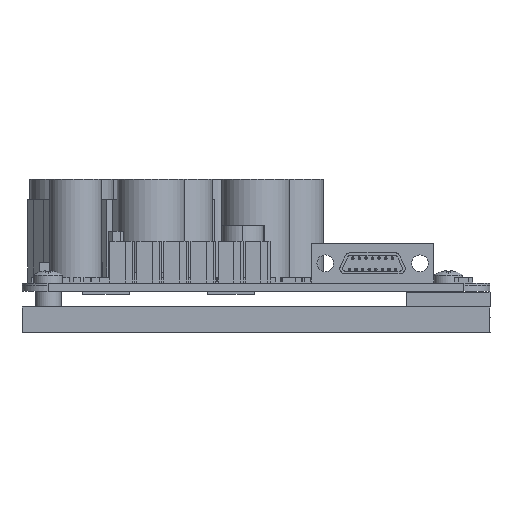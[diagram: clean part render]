
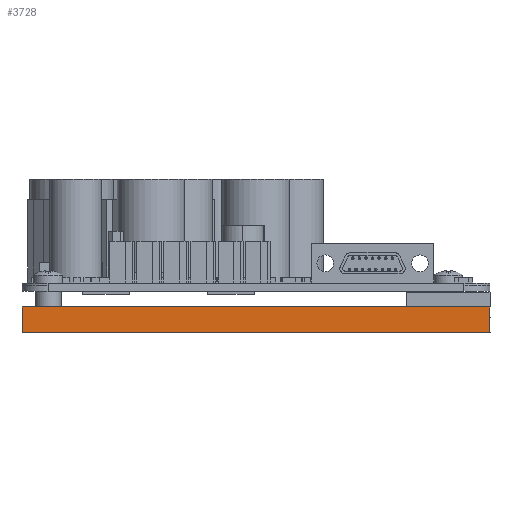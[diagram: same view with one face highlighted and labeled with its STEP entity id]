
A CAD part, front view. The second image highlights one B-rep face of the part: STEP entity #3728.
In plain terms, the highlighted planar face has unit normal (0, -1, 0).
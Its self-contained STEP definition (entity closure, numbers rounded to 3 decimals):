
#626 = CARTESIAN_POINT ( 'NONE',  ( 28.663, -48.179, 166.489 ) ) ;
#641 = CARTESIAN_POINT ( 'NONE',  ( -61.337, -48.179, 166.489 ) ) ;
#2632 = EDGE_CURVE ( 'NONE', #4540, #30219, #23913, .T. ) ;
#3728 = ADVANCED_FACE ( 'NONE', ( #6053 ), #43228, .F. ) ;
#4164 = LINE ( 'NONE', #626, #38161 ) ;
#4540 = VERTEX_POINT ( 'NONE', #7003 ) ;
#4919 = ORIENTED_EDGE ( 'NONE', *, *, #33409, .F. ) ;
#6053 = FACE_OUTER_BOUND ( 'NONE', #35279, .T. ) ;
#6078 = CARTESIAN_POINT ( 'NONE',  ( -61.337, -48.179, 161.489 ) ) ;
#7003 = CARTESIAN_POINT ( 'NONE',  ( -61.337, -48.179, 166.489 ) ) ;
#8305 = ORIENTED_EDGE ( 'NONE', *, *, #2632, .T. ) ;
#8791 = VERTEX_POINT ( 'NONE', #22367 ) ;
#14306 = ORIENTED_EDGE ( 'NONE', *, *, #38136, .F. ) ;
#17520 = EDGE_CURVE ( 'NONE', #30219, #25115, #21766, .T. ) ;
#18467 = DIRECTION ( 'NONE',  ( 0., 0., 1. ) ) ;
#20219 = CARTESIAN_POINT ( 'NONE',  ( 28.663, -48.179, 161.489 ) ) ;
#21444 = DIRECTION ( 'NONE',  ( 0., 0., -1. ) ) ;
#21766 = LINE ( 'NONE', #28339, #39629 ) ;
#21886 = CARTESIAN_POINT ( 'NONE',  ( -61.337, -48.179, 166.489 ) ) ;
#22367 = CARTESIAN_POINT ( 'NONE',  ( 28.663, -48.179, 166.489 ) ) ;
#23913 = LINE ( 'NONE', #641, #34559 ) ;
#25115 = VERTEX_POINT ( 'NONE', #20219 ) ;
#28339 = CARTESIAN_POINT ( 'NONE',  ( -61.337, -48.179, 161.489 ) ) ;
#29673 = VECTOR ( 'NONE', #41347, 1000. ) ;
#30219 = VERTEX_POINT ( 'NONE', #6078 ) ;
#30806 = LINE ( 'NONE', #34190, #29673 ) ;
#31934 = DIRECTION ( 'NONE',  ( 1., 0., 0. ) ) ;
#33236 = ORIENTED_EDGE ( 'NONE', *, *, #17520, .T. ) ;
#33409 = EDGE_CURVE ( 'NONE', #4540, #8791, #30806, .T. ) ;
#34190 = CARTESIAN_POINT ( 'NONE',  ( -61.337, -48.179, 166.489 ) ) ;
#34559 = VECTOR ( 'NONE', #21444, 1000. ) ;
#34749 = AXIS2_PLACEMENT_3D ( 'NONE', #21886, #36252, #18467 ) ;
#35279 = EDGE_LOOP ( 'NONE', ( #33236, #14306, #4919, #8305 ) ) ;
#36252 = DIRECTION ( 'NONE',  ( 0., 1., 0. ) ) ;
#38136 = EDGE_CURVE ( 'NONE', #8791, #25115, #4164, .T. ) ;
#38161 = VECTOR ( 'NONE', #43689, 1000. ) ;
#39629 = VECTOR ( 'NONE', #31934, 1000. ) ;
#41347 = DIRECTION ( 'NONE',  ( 1., 0., 0. ) ) ;
#43228 = PLANE ( 'NONE',  #34749 ) ;
#43689 = DIRECTION ( 'NONE',  ( 0., 0., -1. ) ) ;
